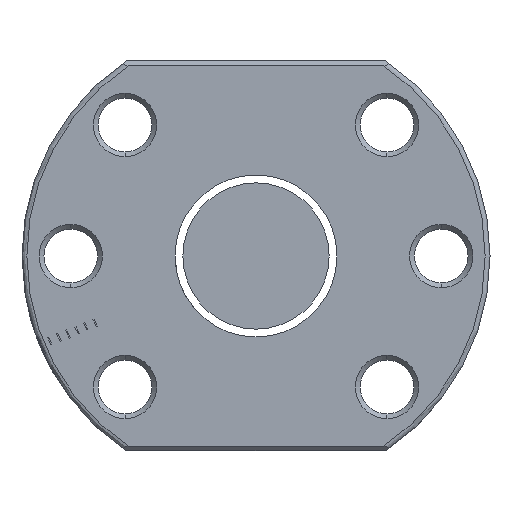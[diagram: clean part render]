
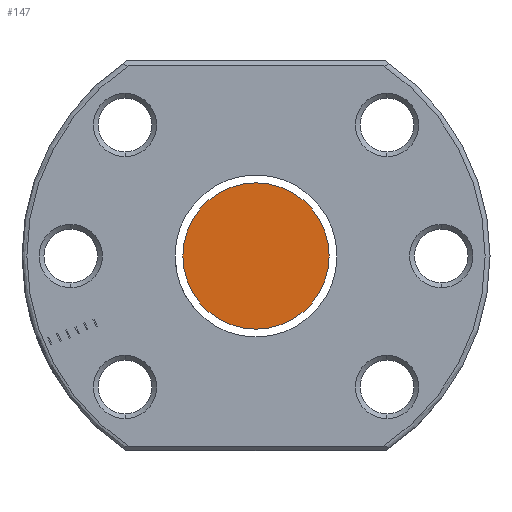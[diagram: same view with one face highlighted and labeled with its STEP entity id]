
A CAD part, left-side view. The second image highlights one B-rep face of the part: STEP entity #147.
In plain terms, the highlighted planar face has unit normal (-1, 0, 0).
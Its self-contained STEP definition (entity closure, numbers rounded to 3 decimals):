
#58 = CIRCLE ( 'NONE', #4944, 7.5 ) ;
#147 = ADVANCED_FACE ( 'NONE', ( #3531 ), #5074, .T. ) ;
#180 = CARTESIAN_POINT ( 'NONE',  ( -270., 0., 7.5 ) ) ;
#1205 = VERTEX_POINT ( 'NONE', #180 ) ;
#1334 = CARTESIAN_POINT ( 'NONE',  ( -270., 0., -7.5 ) ) ;
#1571 = DIRECTION ( 'NONE',  ( 0., 0., -1. ) ) ;
#1606 = CARTESIAN_POINT ( 'NONE',  ( -270., 0., 0. ) ) ;
#1658 = ORIENTED_EDGE ( 'NONE', *, *, #3811, .F. ) ;
#1821 = ORIENTED_EDGE ( 'NONE', *, *, #4348, .F. ) ;
#2181 = DIRECTION ( 'NONE',  ( 1., 0., 0. ) ) ;
#2526 = DIRECTION ( 'NONE',  ( 1., 0., 0. ) ) ;
#2779 = DIRECTION ( 'NONE',  ( 0., 0., -1. ) ) ;
#3531 = FACE_OUTER_BOUND ( 'NONE', #5694, .T. ) ;
#3596 = DIRECTION ( 'NONE',  ( 0., 0., 1. ) ) ;
#3811 = EDGE_CURVE ( 'NONE', #4975, #1205, #58, .T. ) ;
#4033 = CARTESIAN_POINT ( 'NONE',  ( -270., 0., 0. ) ) ;
#4348 = EDGE_CURVE ( 'NONE', #1205, #4975, #5152, .T. ) ;
#4944 = AXIS2_PLACEMENT_3D ( 'NONE', #5192, #2181, #2779 ) ;
#4975 = VERTEX_POINT ( 'NONE', #1334 ) ;
#5074 = PLANE ( 'NONE',  #6071 ) ;
#5146 = AXIS2_PLACEMENT_3D ( 'NONE', #1606, #2526, #1571 ) ;
#5152 = CIRCLE ( 'NONE', #5146, 7.5 ) ;
#5192 = CARTESIAN_POINT ( 'NONE',  ( -270., 0., 0. ) ) ;
#5467 = DIRECTION ( 'NONE',  ( -1., 0., 0. ) ) ;
#5694 = EDGE_LOOP ( 'NONE', ( #1658, #1821 ) ) ;
#6071 = AXIS2_PLACEMENT_3D ( 'NONE', #4033, #5467, #3596 ) ;
